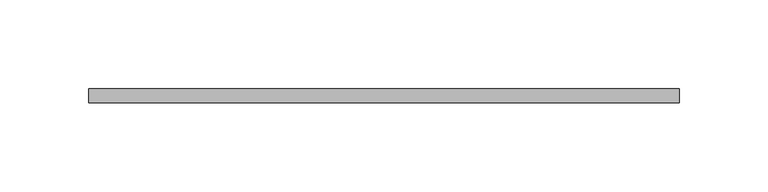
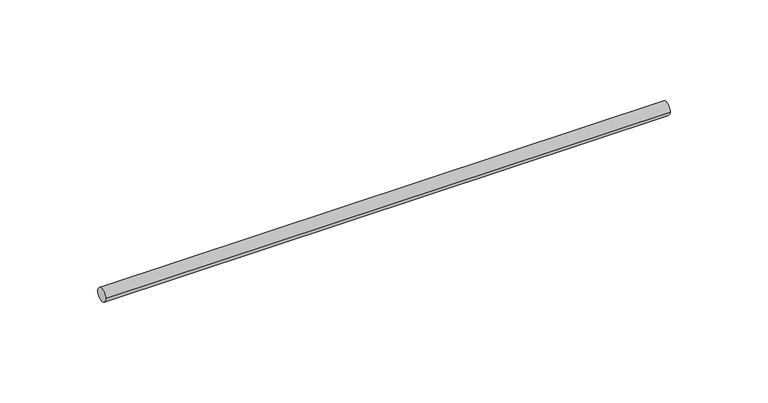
"""IFC4 building model written with IfcOpenShell, lengths in millimetres: valve geometry, Superfix Threaded Rod (used for clamps) : Threaded Rod  Extra  - 1000 mm (used for clamps)."""

from ifc_helpers import new_model, si_unit, point, frame, origin, origin_2d, place, context, project, spatial, circle_curve, trimmed, segment, composite_curve, outline, extrude, source, transform, mapped, element, save


def valve_44c210af(model_context):
    return source(origin(), model_context, "Body", "SweptSolid", [
        extrude(outline(composite_curve([segment(trimmed(circle_curve(origin_2d(), 4.0), [point((-4.0, 0.0))], [point((4.0, 0.0))], False, "CARTESIAN"), True, "CONTINUOUS"), segment(trimmed(circle_curve(origin_2d(), 4.0), [point((4.0, 0.0))], [point((-4.0, 0.0))], False, "CARTESIAN"), True, "CONTINUOUS")], self_intersect=False)), frame((-10.0, 0.0, 0.0), z_axis=(1.0, 0.0, 0.0), x_axis=(0.0, 1.0, 0.0)), (0.0, 0.0, 1.0), 333.0),
    ])


if __name__ == "__main__":
    model = new_model("IFC4")
    model_context = context("Model", 3, world=origin())
    ifc_project = project(units=[si_unit("LENGTHUNIT", "METRE", prefix="MILLI")], contexts=[model_context])
    site = spatial("IfcSite", under=ifc_project)
    building = spatial("IfcBuilding", under=site)
    placement = place(None, origin())
    valve_shape = valve_44c210af(model_context)
    element("IfcValve", 1, ObjectType="Superfix Threaded Rod (used for clamps) : Threaded Rod  Extra  - 1000 mm (used for clamps)", at=placement, inside=building, context=model_context, shape_type="MappedRepresentation", body=[
        mapped(valve_shape, transform((0.0, 0.0, 0.0), x_axis=(1.0, 0.0, 0.0), y_axis=(0.0, 1.0, 0.0), z_axis=(0.0, 0.0, 1.0))),
    ])
    save(model, "model.ifc")
